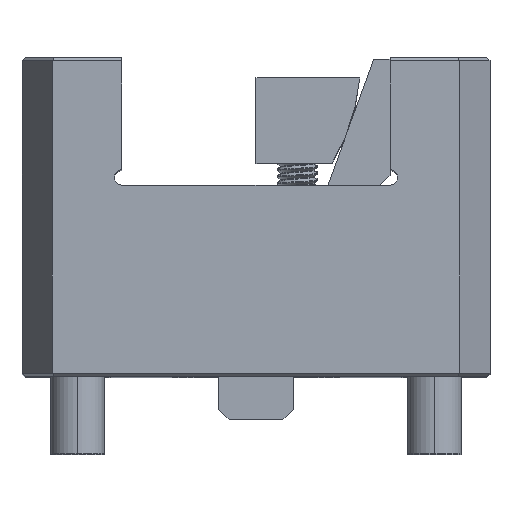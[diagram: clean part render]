
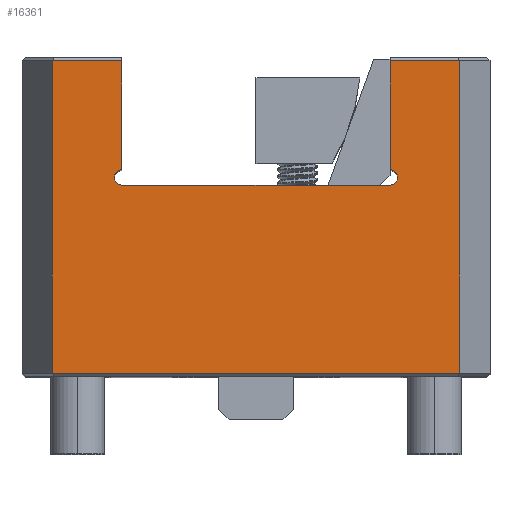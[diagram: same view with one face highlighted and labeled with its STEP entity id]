
A CAD part, top view. The second image highlights one B-rep face of the part: STEP entity #16361.
In plain terms, the highlighted planar face has unit normal (0, 0, 1).
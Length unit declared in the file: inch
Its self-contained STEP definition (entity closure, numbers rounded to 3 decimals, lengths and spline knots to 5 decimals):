
#169 = EDGE_CURVE ( 'NONE', #3716, #7512, #13114, .T. ) ;
#450 = CARTESIAN_POINT ( 'NONE',  ( -1.19602, 0.02, 3.5 ) ) ;
#594 = DIRECTION ( 'NONE',  ( 0., 0., -1. ) ) ;
#991 = CARTESIAN_POINT ( 'NONE',  ( -0.7874, 1.215, 3.5 ) ) ;
#1564 = CIRCLE ( 'NONE', #10111, 0.045 ) ;
#1622 = DIRECTION ( 'NONE',  ( 1., 0., 0. ) ) ;
#1655 = DIRECTION ( 'NONE',  ( 0., 0., 1. ) ) ;
#1961 = CARTESIAN_POINT ( 'NONE',  ( -0.8324, 1.17, 3.5 ) ) ;
#2017 = VECTOR ( 'NONE', #17127, 39.37008 ) ;
#2294 = CARTESIAN_POINT ( 'NONE',  ( 0.7874, 1.855, 3.5 ) ) ;
#2445 = VERTEX_POINT ( 'NONE', #2294 ) ;
#2489 = VECTOR ( 'NONE', #15743, 39.37008 ) ;
#2646 = DIRECTION ( 'NONE',  ( 1., 0., 0. ) ) ;
#2760 = ORIENTED_EDGE ( 'NONE', *, *, #10197, .T. ) ;
#3036 = DIRECTION ( 'NONE',  ( 0., -1., 0. ) ) ;
#3225 = VERTEX_POINT ( 'NONE', #6685 ) ;
#3716 = VERTEX_POINT ( 'NONE', #13157 ) ;
#4152 = ORIENTED_EDGE ( 'NONE', *, *, #14084, .T. ) ;
#4275 = LINE ( 'NONE', #19198, #15151 ) ;
#4514 = CARTESIAN_POINT ( 'NONE',  ( -0.7874, 1.125, 3.5 ) ) ;
#4515 = LINE ( 'NONE', #16568, #13188 ) ;
#4564 = LINE ( 'NONE', #9058, #14803 ) ;
#4616 = CARTESIAN_POINT ( 'NONE',  ( 0.7874, 1.17, 3.5 ) ) ;
#5053 = ORIENTED_EDGE ( 'NONE', *, *, #169, .T. ) ;
#5097 = ORIENTED_EDGE ( 'NONE', *, *, #7029, .T. ) ;
#5936 = VECTOR ( 'NONE', #7056, 39.37008 ) ;
#6103 = ORIENTED_EDGE ( 'NONE', *, *, #11588, .T. ) ;
#6290 = ORIENTED_EDGE ( 'NONE', *, *, #12392, .T. ) ;
#6685 = CARTESIAN_POINT ( 'NONE',  ( 0.7874, 1.215, 3.5 ) ) ;
#6856 = EDGE_CURVE ( 'NONE', #10194, #11386, #14682, .T. ) ;
#6973 = DIRECTION ( 'NONE',  ( -1., 0., 0. ) ) ;
#7029 = EDGE_CURVE ( 'NONE', #7985, #3716, #12808, .T. ) ;
#7056 = DIRECTION ( 'NONE',  ( 0., -1., 0. ) ) ;
#7512 = VERTEX_POINT ( 'NONE', #16025 ) ;
#7602 = ORIENTED_EDGE ( 'NONE', *, *, #6856, .T. ) ;
#7856 = CARTESIAN_POINT ( 'NONE',  ( 1.19602, 1.855, 3.5 ) ) ;
#7928 = ORIENTED_EDGE ( 'NONE', *, *, #13729, .T. ) ;
#7985 = VERTEX_POINT ( 'NONE', #991 ) ;
#8489 = VERTEX_POINT ( 'NONE', #8979 ) ;
#8723 = VERTEX_POINT ( 'NONE', #7856 ) ;
#8979 = CARTESIAN_POINT ( 'NONE',  ( 0.7874, 1.125, 3.5 ) ) ;
#9058 = CARTESIAN_POINT ( 'NONE',  ( 0.7874, 1.855, 3.5 ) ) ;
#9151 = ORIENTED_EDGE ( 'NONE', *, *, #9739, .T. ) ;
#9210 = FACE_OUTER_BOUND ( 'NONE', #12329, .T. ) ;
#9648 = VECTOR ( 'NONE', #11761, 39.37008 ) ;
#9739 = EDGE_CURVE ( 'NONE', #10816, #7985, #1564, .T. ) ;
#9767 = CARTESIAN_POINT ( 'NONE',  ( -0.7874, 1.875, 3.5 ) ) ;
#9829 = VERTEX_POINT ( 'NONE', #4514 ) ;
#10111 = AXIS2_PLACEMENT_3D ( 'NONE', #10191, #16174, #2646 ) ;
#10143 = CARTESIAN_POINT ( 'NONE',  ( 0.7874, 1.215, 3.5 ) ) ;
#10191 = CARTESIAN_POINT ( 'NONE',  ( -0.7874, 1.17, 3.5 ) ) ;
#10194 = VERTEX_POINT ( 'NONE', #450 ) ;
#10197 = EDGE_CURVE ( 'NONE', #2445, #3225, #14181, .T. ) ;
#10369 = DIRECTION ( 'NONE',  ( 1., 0., 0. ) ) ;
#10415 = CIRCLE ( 'NONE', #18255, 0.045 ) ;
#10673 = DIRECTION ( 'NONE',  ( 1., 0., 0. ) ) ;
#10816 = VERTEX_POINT ( 'NONE', #1961 ) ;
#11386 = VERTEX_POINT ( 'NONE', #17439 ) ;
#11588 = EDGE_CURVE ( 'NONE', #9829, #10816, #10415, .T. ) ;
#11761 = DIRECTION ( 'NONE',  ( -1., 0., 0. ) ) ;
#12157 = PLANE ( 'NONE',  #18067 ) ;
#12214 = CARTESIAN_POINT ( 'NONE',  ( -0.7874, 1.17, 3.5 ) ) ;
#12329 = EDGE_LOOP ( 'NONE', ( #6290, #7602, #18369, #7928, #2760, #4152, #15063, #6103, #9151, #5097, #5053 ) ) ;
#12392 = EDGE_CURVE ( 'NONE', #7512, #10194, #4515, .T. ) ;
#12699 = LINE ( 'NONE', #12993, #2489 ) ;
#12808 = LINE ( 'NONE', #9767, #2017 ) ;
#12993 = CARTESIAN_POINT ( 'NONE',  ( 1.19602, 1.875, 3.5 ) ) ;
#13004 = EDGE_CURVE ( 'NONE', #11386, #8723, #12699, .T. ) ;
#13114 = LINE ( 'NONE', #19128, #9648 ) ;
#13157 = CARTESIAN_POINT ( 'NONE',  ( -0.7874, 1.855, 3.5 ) ) ;
#13188 = VECTOR ( 'NONE', #3036, 39.37008 ) ;
#13402 = CARTESIAN_POINT ( 'NONE',  ( 1.19602, 0.02, 3.5 ) ) ;
#13729 = EDGE_CURVE ( 'NONE', #8723, #2445, #4564, .T. ) ;
#14084 = EDGE_CURVE ( 'NONE', #3225, #8489, #16663, .T. ) ;
#14181 = LINE ( 'NONE', #10143, #5936 ) ;
#14682 = LINE ( 'NONE', #13402, #17161 ) ;
#14803 = VECTOR ( 'NONE', #16608, 39.37008 ) ;
#15063 = ORIENTED_EDGE ( 'NONE', *, *, #17629, .T. ) ;
#15151 = VECTOR ( 'NONE', #6973, 39.37008 ) ;
#15695 = CARTESIAN_POINT ( 'NONE',  ( 0.7874, 1.17, 3.5 ) ) ;
#15743 = DIRECTION ( 'NONE',  ( 0., 1., 0. ) ) ;
#16025 = CARTESIAN_POINT ( 'NONE',  ( -1.19602, 1.855, 3.5 ) ) ;
#16041 = AXIS2_PLACEMENT_3D ( 'NONE', #15695, #594, #18666 ) ;
#16174 = DIRECTION ( 'NONE',  ( 0., 0., -1. ) ) ;
#16361 = ADVANCED_FACE ( 'NONE', ( #9210 ), #12157, .T. ) ;
#16568 = CARTESIAN_POINT ( 'NONE',  ( -1.19602, 0., 3.5 ) ) ;
#16608 = DIRECTION ( 'NONE',  ( -1., 0., 0. ) ) ;
#16663 = CIRCLE ( 'NONE', #16041, 0.045 ) ;
#16911 = DIRECTION ( 'NONE',  ( 0., 0., -1. ) ) ;
#17127 = DIRECTION ( 'NONE',  ( 0., 1., 0. ) ) ;
#17161 = VECTOR ( 'NONE', #10369, 39.37008 ) ;
#17439 = CARTESIAN_POINT ( 'NONE',  ( 1.19602, 0.02, 3.5 ) ) ;
#17629 = EDGE_CURVE ( 'NONE', #8489, #9829, #4275, .T. ) ;
#18067 = AXIS2_PLACEMENT_3D ( 'NONE', #4616, #1655, #10673 ) ;
#18255 = AXIS2_PLACEMENT_3D ( 'NONE', #12214, #16911, #1622 ) ;
#18369 = ORIENTED_EDGE ( 'NONE', *, *, #13004, .T. ) ;
#18666 = DIRECTION ( 'NONE',  ( 1., 0., 0. ) ) ;
#19128 = CARTESIAN_POINT ( 'NONE',  ( -1.19602, 1.855, 3.5 ) ) ;
#19198 = CARTESIAN_POINT ( 'NONE',  ( -0.7874, 1.125, 3.5 ) ) ;
